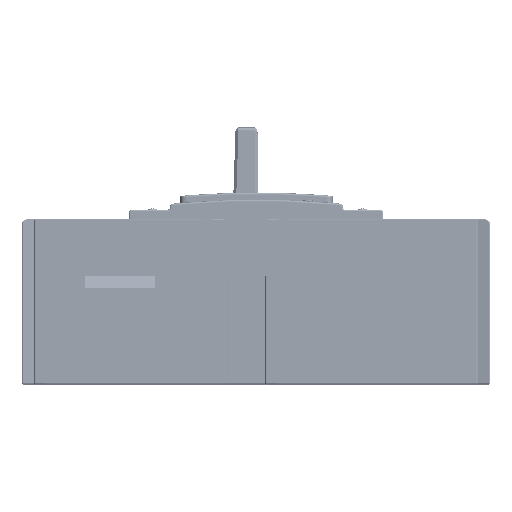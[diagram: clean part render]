
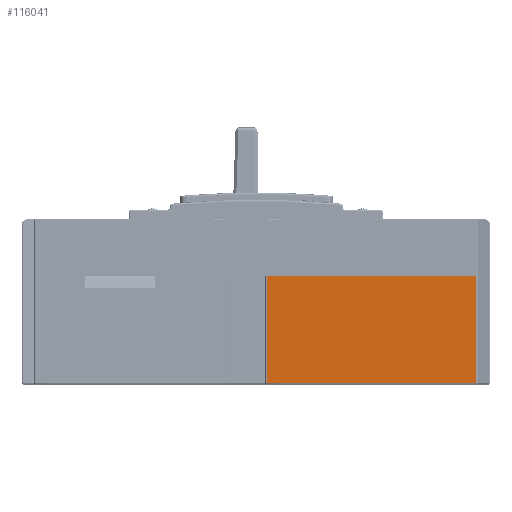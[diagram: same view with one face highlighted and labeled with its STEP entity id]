
A CAD part, front view. The second image highlights one B-rep face of the part: STEP entity #116041.
In plain terms, the highlighted planar face has unit normal (0, -1, 0).
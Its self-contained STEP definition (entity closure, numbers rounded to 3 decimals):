
#11217=FACE_OUTER_BOUND('',#17771,.T.);
#17771=EDGE_LOOP('',(#78397,#78398,#78399,#78400));
#25704=LINE('',#169272,#37157);
#25720=LINE('',#169321,#37173);
#25721=LINE('',#169323,#37174);
#25722=LINE('',#169324,#37175);
#37157=VECTOR('',#136430,123.55);
#37173=VECTOR('',#136466,63.);
#37174=VECTOR('',#136467,123.55);
#37175=VECTOR('',#136468,63.);
#48604=VERTEX_POINT('',#169269);
#48605=VERTEX_POINT('',#169271);
#48628=VERTEX_POINT('',#169320);
#48629=VERTEX_POINT('',#169322);
#60352=EDGE_CURVE('',#48604,#48605,#25704,.F.);
#60376=EDGE_CURVE('',#48604,#48628,#25720,.F.);
#60377=EDGE_CURVE('',#48628,#48629,#25721,.F.);
#60378=EDGE_CURVE('',#48605,#48629,#25722,.T.);
#78397=ORIENTED_EDGE('',*,*,#60352,.F.);
#78398=ORIENTED_EDGE('',*,*,#60376,.T.);
#78399=ORIENTED_EDGE('',*,*,#60377,.T.);
#78400=ORIENTED_EDGE('',*,*,#60378,.F.);
#112338=PLANE('',#124757);
#116041=ADVANCED_FACE('',(#11217),#112338,.F.);
#124757=AXIS2_PLACEMENT_3D('',#169319,#136464,#136465);
#136430=DIRECTION('',(-1.,0.,0.));
#136464=DIRECTION('center_axis',(0.,1.,0.));
#136465=DIRECTION('ref_axis',(0.,0.,1.));
#136466=DIRECTION('',(0.,0.,1.));
#136467=DIRECTION('',(-1.,0.,0.));
#136468=DIRECTION('',(0.,0.,-1.));
#169269=CARTESIAN_POINT('',(-10.811,-337.3,60.9));
#169271=CARTESIAN_POINT('',(112.739,-337.3,60.9));
#169272=CARTESIAN_POINT('',(112.739,-337.3,60.9));
#169319=CARTESIAN_POINT('Origin',(120.239,-337.3,60.9));
#169320=CARTESIAN_POINT('',(-10.811,-337.3,-2.1));
#169321=CARTESIAN_POINT('',(-10.811,-337.3,-2.1));
#169322=CARTESIAN_POINT('',(112.739,-337.3,-2.1));
#169323=CARTESIAN_POINT('',(112.739,-337.3,-2.1));
#169324=CARTESIAN_POINT('',(112.739,-337.3,60.9));
